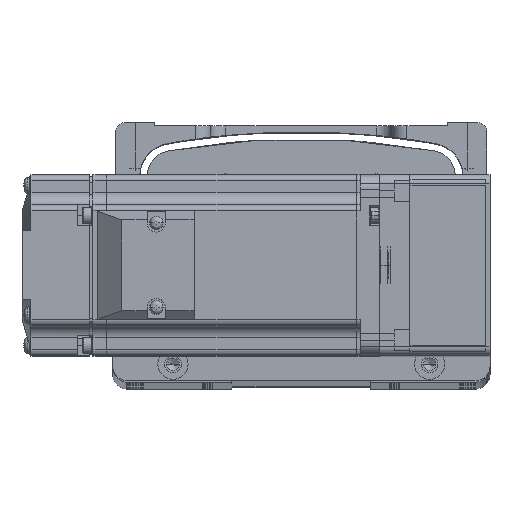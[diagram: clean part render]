
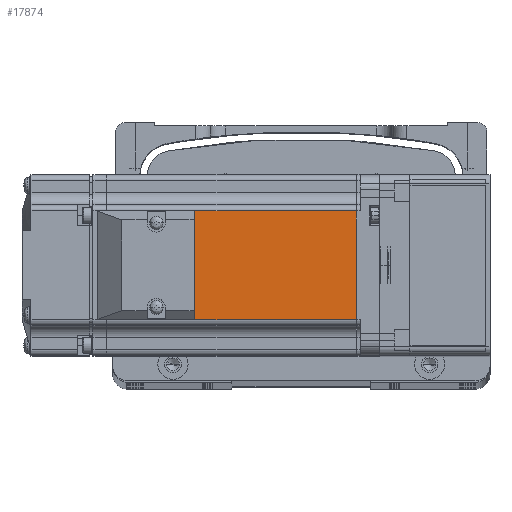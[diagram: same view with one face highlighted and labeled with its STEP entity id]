
A CAD part, top view. The second image highlights one B-rep face of the part: STEP entity #17874.
In plain terms, the highlighted planar face has unit normal (0, 0, 1) as drawn and (0, 1, 0) by its records, which use the part's own axes.
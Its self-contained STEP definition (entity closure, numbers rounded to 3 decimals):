
#908 = VERTEX_POINT ( 'NONE', #53975 ) ;
#4775 = PLANE ( 'NONE',  #66772 ) ;
#8617 = ORIENTED_EDGE ( 'NONE', *, *, #83508, .T. ) ;
#8633 = LINE ( 'NONE', #63696, #24144 ) ;
#12814 = EDGE_CURVE ( 'NONE', #51394, #64142, #65554, .T. ) ;
#14488 = LINE ( 'NONE', #85186, #83045 ) ;
#14538 = EDGE_LOOP ( 'NONE', ( #78151, #8617, #77483, #57612 ) ) ;
#17874 = ADVANCED_FACE ( 'NONE', ( #35823 ), #4775, .T. ) ;
#18666 = DIRECTION ( 'NONE',  ( 0., 0., 1. ) ) ;
#20035 = VECTOR ( 'NONE', #18666, 1000. ) ;
#24144 = VECTOR ( 'NONE', #30577, 1000. ) ;
#24200 = VERTEX_POINT ( 'NONE', #85605 ) ;
#25355 = CARTESIAN_POINT ( 'NONE',  ( -90.45, 30., 0. ) ) ;
#29259 = CARTESIAN_POINT ( 'NONE',  ( -90.45, 30., 18. ) ) ;
#29903 = EDGE_CURVE ( 'NONE', #24200, #51394, #55357, .T. ) ;
#30577 = DIRECTION ( 'NONE',  ( 0., 0., 1. ) ) ;
#31402 = CARTESIAN_POINT ( 'NONE',  ( -7.75, 30., 18. ) ) ;
#35823 = FACE_OUTER_BOUND ( 'NONE', #14538, .T. ) ;
#36835 = CARTESIAN_POINT ( 'NONE',  ( -6.5, 30., 18. ) ) ;
#38087 = DIRECTION ( 'NONE',  ( 0., 1., 0. ) ) ;
#51394 = VERTEX_POINT ( 'NONE', #29259 ) ;
#52137 = EDGE_CURVE ( 'NONE', #908, #64142, #8633, .T. ) ;
#53975 = CARTESIAN_POINT ( 'NONE',  ( -7.75, 30., -18. ) ) ;
#55357 = LINE ( 'NONE', #25355, #20035 ) ;
#57612 = ORIENTED_EDGE ( 'NONE', *, *, #12814, .T. ) ;
#58789 = DIRECTION ( 'NONE',  ( -1., 0., 0. ) ) ;
#63455 = VECTOR ( 'NONE', #83291, 1000. ) ;
#63696 = CARTESIAN_POINT ( 'NONE',  ( -7.75, 30., 0. ) ) ;
#64142 = VERTEX_POINT ( 'NONE', #31402 ) ;
#65554 = LINE ( 'NONE', #36835, #63455 ) ;
#66772 = AXIS2_PLACEMENT_3D ( 'NONE', #77913, #38087, #84517 ) ;
#77483 = ORIENTED_EDGE ( 'NONE', *, *, #29903, .T. ) ;
#77913 = CARTESIAN_POINT ( 'NONE',  ( -6.5, 30., 25. ) ) ;
#78151 = ORIENTED_EDGE ( 'NONE', *, *, #52137, .F. ) ;
#83045 = VECTOR ( 'NONE', #58789, 1000. ) ;
#83291 = DIRECTION ( 'NONE',  ( 1., 0., 0. ) ) ;
#83508 = EDGE_CURVE ( 'NONE', #908, #24200, #14488, .T. ) ;
#84517 = DIRECTION ( 'NONE',  ( 0., 0., 1. ) ) ;
#85186 = CARTESIAN_POINT ( 'NONE',  ( -6.5, 30., -18. ) ) ;
#85605 = CARTESIAN_POINT ( 'NONE',  ( -90.45, 30., -18. ) ) ;
